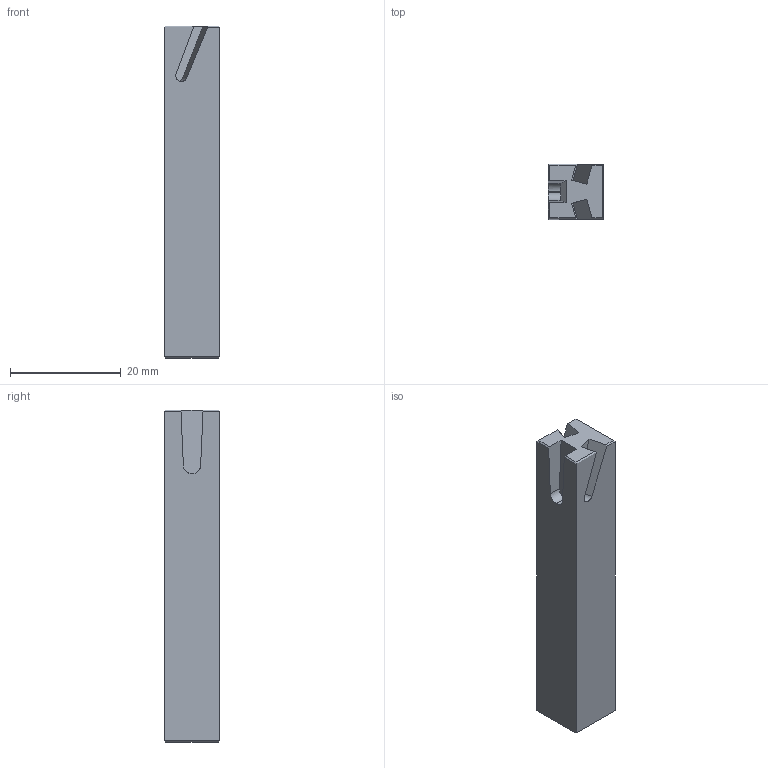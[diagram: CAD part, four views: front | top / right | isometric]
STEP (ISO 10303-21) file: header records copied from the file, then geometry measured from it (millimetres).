
FILE_DESCRIPTION (( 'STEP AP203' ), '1' );
FILE_NAME ('SQ-P10.60.2-2.STEP', '2021-09-08T12:41:07', ( '' ), ( '' ), 'SwSTEP 2.0', 'SolidWorks 2014', '' );
FILE_SCHEMA (( 'CONFIG_CONTROL_DESIGN' ));
Length unit declared in the file: millimetre
Products named in the file (1): SQ-P10.60.2-2
Bounding box: 10 x 10 x 60 mm (x, y, z)
Volume: 5040.7 mm3; surface area: 3321.8 mm2
Topology: 1 solids, 1 shells, 38 faces, 98 edges, 61 vertices
Faces by surface type: plane 29, cylinder 7, cone 2
Entity records: 1198 total; most frequent: CARTESIAN_POINT 223, ORIENTED_EDGE 192, DIRECTION 174, EDGE_CURVE 96, LINE 78, VECTOR 78, VERTEX_POINT 61, AXIS2_PLACEMENT_3D 48
